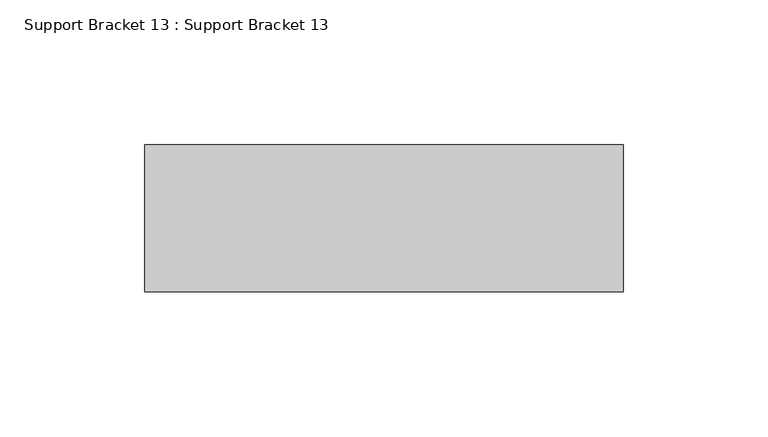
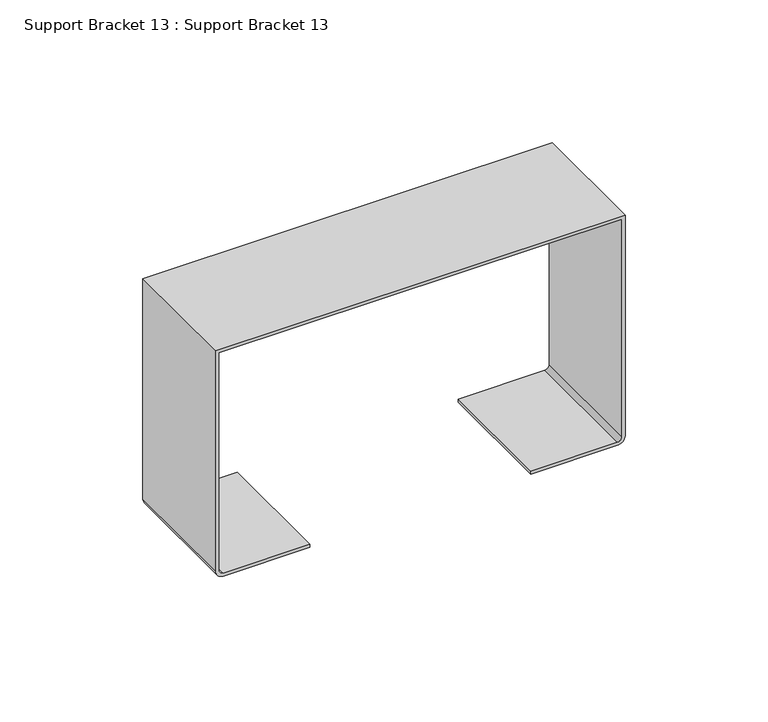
"""IFC4 building model written with IfcOpenShell, lengths in millimetres: proxy geometry, Support Bracket 13 : Support Bracket 13."""

from ifc_helpers import new_model, si_unit, point, frame, frame_2d, origin, place, context, project, spatial, polyline, circle_curve, trimmed, segment, composite_curve, outline, extrude, source, transform, mapped, element, save


def support_bracket_13_support_bracket_13_55ad3be6(model_context):
    return source(origin(), model_context, "Body", "SweptSolid", [
        extrude(outline(composite_curve([segment(polyline([(920.623, 15857.3938902), (1014.8371562, 15857.3938902), (1014.8371562, 15692.0954527), (920.623, 15692.0954527)]), True, "CONTINUOUS"), segment(trimmed(circle_curve(frame_2d((920.623, 15695.1434527)), 3.048), [point((920.623, 15692.0954527))], [point((917.575, 15695.1434527))], False, "CARTESIAN"), True, "CONTINUOUS"), segment(polyline([(917.575, 15695.1434527), (917.575, 15730.1954527), (918.8648437, 15730.1954527), (918.8648437, 15695.1434527)]), True, "CONTINUOUS"), segment(trimmed(circle_curve(frame_2d((920.623, 15695.1434527)), 1.7581563), [point((918.8648437, 15695.1434527))], [point((920.623, 15693.3852965))], True, "CARTESIAN"), True, "CONTINUOUS"), segment(polyline([(920.623, 15693.3852965), (1013.5473125, 15693.3852965), (1013.5473125, 15856.1040465), (920.623, 15856.1040465)]), True, "CONTINUOUS"), segment(trimmed(circle_curve(frame_2d((920.623, 15854.3458902)), 1.7581563), [point((920.623, 15856.1040465))], [point((918.8648437, 15854.3458902))], True, "CARTESIAN"), True, "CONTINUOUS"), segment(polyline([(918.8648437, 15854.3458902), (918.8648437, 15819.2938902), (917.575, 15819.2938902), (917.575, 15854.3458902)]), True, "CONTINUOUS"), segment(trimmed(circle_curve(frame_2d((920.623, 15854.3458902)), 3.048), [point((917.575, 15854.3458902))], [point((920.623, 15857.3938902))], False, "CARTESIAN"), True, "CONTINUOUS")], self_intersect=False)), frame((0.0, 1061.2182928, 0.0), z_axis=(0.0, 1.0, 0.0), x_axis=(0.0, 0.0, 1.0)), (0.0, 0.0, 1.0), 50.8),
    ])


if __name__ == "__main__":
    model = new_model("IFC4")
    model_context = context("Model", 3, world=origin())
    ifc_project = project(units=[si_unit("LENGTHUNIT", "METRE", prefix="MILLI")], contexts=[model_context])
    site = spatial("IfcSite", under=ifc_project)
    building = spatial("IfcBuilding", under=site)
    placement = place(None, origin())
    support_bracket_13_support_bracket_13_shape = support_bracket_13_support_bracket_13_55ad3be6(model_context)
    element("IfcBuildingElementProxy", 1, Name="Support Bracket 13 : Support Bracket 13", ObjectType="Support Bracket 13 : Support Bracket 13", at=placement, inside=building, context=model_context, shape_type="MappedRepresentation", body=[
        mapped(support_bracket_13_support_bracket_13_shape, transform((0.0, 0.0, 0.0), x_axis=(1.0, 0.0, 0.0), y_axis=(0.0, 1.0, 0.0), z_axis=(0.0, 0.0, 1.0))),
    ])
    save(model, "model.ifc")
